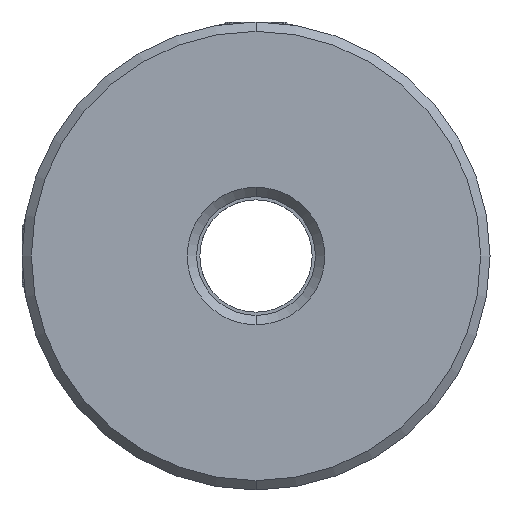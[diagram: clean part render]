
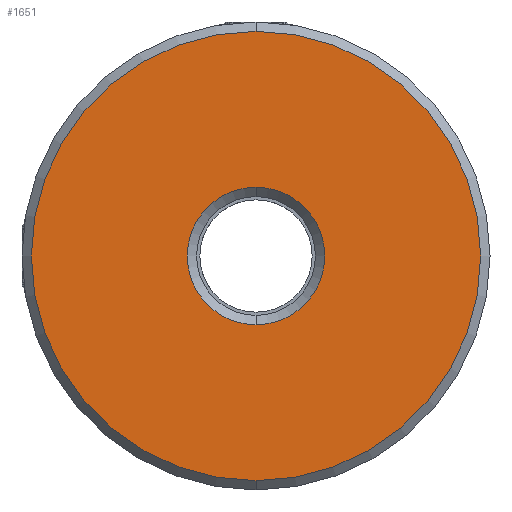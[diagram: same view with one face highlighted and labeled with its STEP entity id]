
A CAD part, front view. The second image highlights one B-rep face of the part: STEP entity #1651.
In plain terms, the highlighted planar face has unit normal (0, -1, 0).
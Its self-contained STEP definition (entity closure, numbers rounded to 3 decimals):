
#74 = AXIS2_PLACEMENT_3D ( 'NONE', #3102, #2567, #1130 ) ;
#84 = AXIS2_PLACEMENT_3D ( 'NONE', #1354, #1046, #1339 ) ;
#185 = VERTEX_POINT ( 'NONE', #2379 ) ;
#224 = FACE_OUTER_BOUND ( 'NONE', #1952, .T. ) ;
#266 = AXIS2_PLACEMENT_3D ( 'NONE', #2678, #1242, #3195 ) ;
#322 = DIRECTION ( 'NONE',  ( 0., 1., 0. ) ) ;
#364 = CARTESIAN_POINT ( 'NONE',  ( -10.188, -0.277, -3.629 ) ) ;
#457 = VERTEX_POINT ( 'NONE', #2238 ) ;
#571 = AXIS2_PLACEMENT_3D ( 'NONE', #985, #2671, #650 ) ;
#650 = DIRECTION ( 'NONE',  ( 0., 0., 1. ) ) ;
#750 = CIRCLE ( 'NONE', #571, 3.675 ) ;
#831 = FACE_BOUND ( 'NONE', #3415, .T. ) ;
#985 = CARTESIAN_POINT ( 'NONE',  ( -10.188, -0.277, 0.046 ) ) ;
#1046 = DIRECTION ( 'NONE',  ( 0., -1., 0. ) ) ;
#1130 = DIRECTION ( 'NONE',  ( 0., 0., 1. ) ) ;
#1242 = DIRECTION ( 'NONE',  ( 0., -1., 0. ) ) ;
#1285 = ORIENTED_EDGE ( 'NONE', *, *, #3523, .T. ) ;
#1304 = EDGE_CURVE ( 'NONE', #3113, #457, #2056, .T. ) ;
#1339 = DIRECTION ( 'NONE',  ( 0., 0., 1. ) ) ;
#1354 = CARTESIAN_POINT ( 'NONE',  ( -10.188, -0.277, 0.046 ) ) ;
#1363 = PLANE ( 'NONE',  #74 ) ;
#1463 = DIRECTION ( 'NONE',  ( 0., 0., 1. ) ) ;
#1651 = ADVANCED_FACE ( 'NONE', ( #224, #831 ), #1363, .F. ) ;
#1654 = ORIENTED_EDGE ( 'NONE', *, *, #1304, .T. ) ;
#1655 = CARTESIAN_POINT ( 'NONE',  ( -10.188, -0.277, -11.954 ) ) ;
#1910 = ORIENTED_EDGE ( 'NONE', *, *, #2937, .T. ) ;
#1952 = EDGE_LOOP ( 'NONE', ( #3478, #1654 ) ) ;
#2056 = CIRCLE ( 'NONE', #84, 12. ) ;
#2060 = CIRCLE ( 'NONE', #266, 12. ) ;
#2238 = CARTESIAN_POINT ( 'NONE',  ( -10.188, -0.277, 12.046 ) ) ;
#2379 = CARTESIAN_POINT ( 'NONE',  ( -10.188, -0.277, 3.721 ) ) ;
#2501 = VERTEX_POINT ( 'NONE', #364 ) ;
#2567 = DIRECTION ( 'NONE',  ( 0., 1., 0. ) ) ;
#2671 = DIRECTION ( 'NONE',  ( 0., 1., 0. ) ) ;
#2678 = CARTESIAN_POINT ( 'NONE',  ( -10.188, -0.277, 0.046 ) ) ;
#2915 = AXIS2_PLACEMENT_3D ( 'NONE', #2917, #322, #1463 ) ;
#2917 = CARTESIAN_POINT ( 'NONE',  ( -10.188, -0.277, 0.046 ) ) ;
#2937 = EDGE_CURVE ( 'NONE', #185, #2501, #750, .T. ) ;
#3032 = CIRCLE ( 'NONE', #2915, 3.675 ) ;
#3102 = CARTESIAN_POINT ( 'NONE',  ( -10.188, -0.277, 0.046 ) ) ;
#3113 = VERTEX_POINT ( 'NONE', #1655 ) ;
#3195 = DIRECTION ( 'NONE',  ( 0., 0., 1. ) ) ;
#3415 = EDGE_LOOP ( 'NONE', ( #1285, #1910 ) ) ;
#3478 = ORIENTED_EDGE ( 'NONE', *, *, #3588, .T. ) ;
#3523 = EDGE_CURVE ( 'NONE', #2501, #185, #3032, .T. ) ;
#3588 = EDGE_CURVE ( 'NONE', #457, #3113, #2060, .T. ) ;
